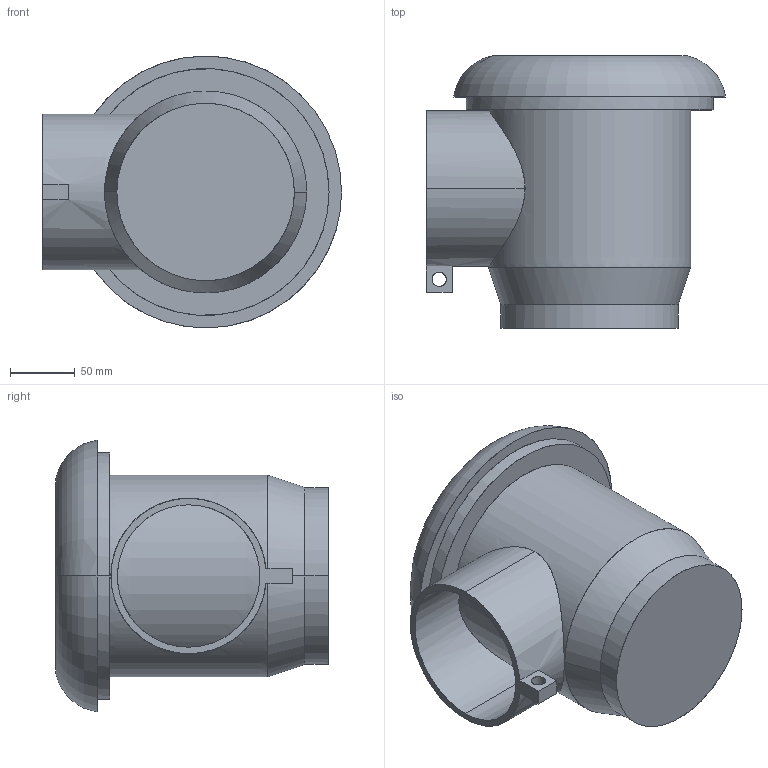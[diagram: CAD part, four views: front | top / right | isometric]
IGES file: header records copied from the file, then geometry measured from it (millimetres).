
Start section:  PTC IGES file: 50099641.igs
Global section: file name: 50099641.igs; native system: Creo Parametric by PTC Inc.; preprocessor: 2019224; author: gm; organization: Unknown; date: 20200203.084305; units: millimetre
Bounding box: 231 x 210.32 x 209.98 mm (x, y, z)
Surface area: 207135.9 mm2 (no closed solid volume)
Topology: 0 solids, 0 shells, 26 faces, 118 edges, 118 vertices
Faces by surface type: revolution 17, bspline 9
